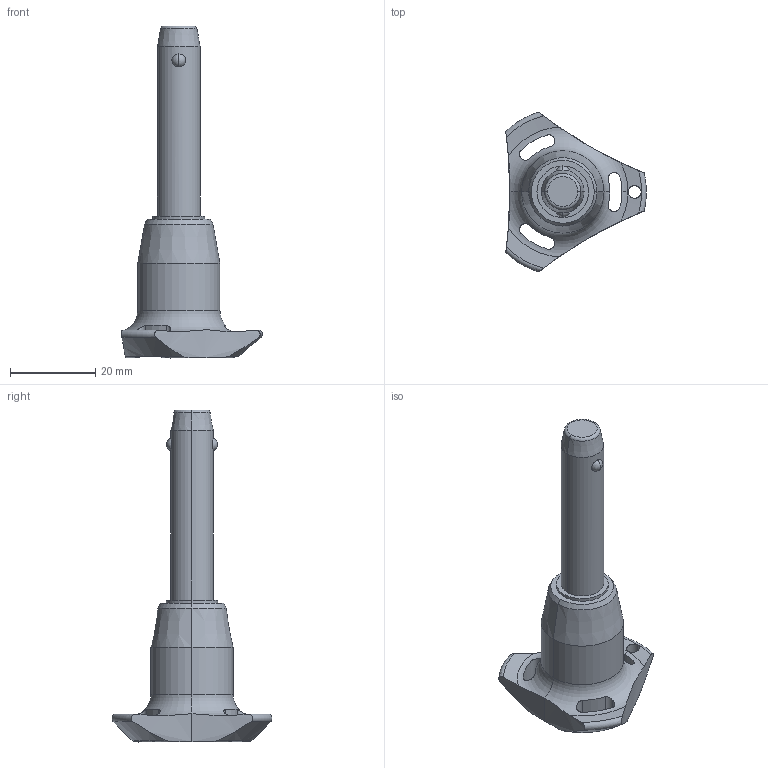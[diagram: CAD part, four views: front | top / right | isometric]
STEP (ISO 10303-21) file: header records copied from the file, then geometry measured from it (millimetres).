
FILE_DESCRIPTION (( 'STEP AP203' ), '1' );
FILE_NAME ('QR1704.M10-035-S.step', '2025-11-12T09:19:19', ( '' ), ( '' ), 'SwSTEP 2.0', 'SolidWorks 2019', '' );
FILE_SCHEMA (( 'CONFIG_CONTROL_DESIGN' ));
Length unit declared in the file: millimetre
Products named in the file (1): QR1704.M10-035-S
Bounding box: 33 x 37.51 x 77.9 mm (x, y, z)
Volume: 13828.8 mm3; surface area: 5264 mm2
Topology: 1 solids, 1 shells, 65 faces, 174 edges, 109 vertices
Faces by surface type: cylinder 30, cone 14, torus 11, sphere 6, plane 4
Entity records: 2758 total; most frequent: CARTESIAN_POINT 1085, ORIENTED_EDGE 348, DIRECTION 331, EDGE_CURVE 174, AXIS2_PLACEMENT_3D 147, VERTEX_POINT 109, CIRCLE 81, EDGE_LOOP 71
